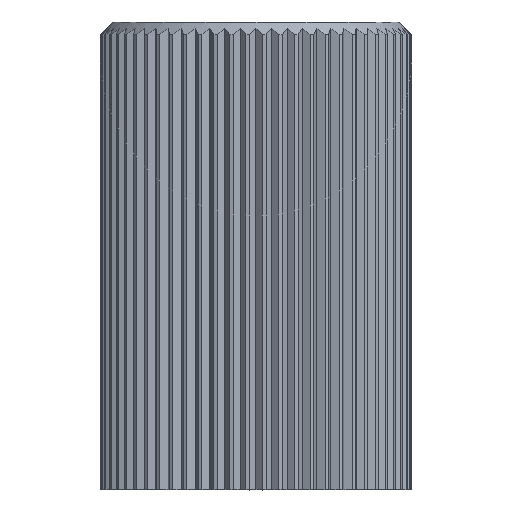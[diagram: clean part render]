
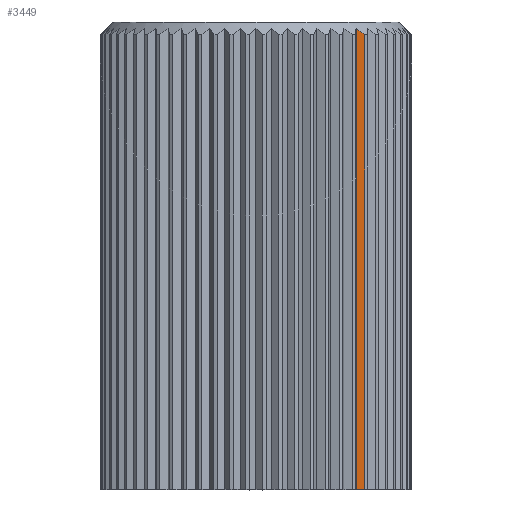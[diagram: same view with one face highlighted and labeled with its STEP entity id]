
A CAD part, top view. The second image highlights one B-rep face of the part: STEP entity #3449.
In plain terms, the highlighted planar face has unit normal (-0.052, 0, 0.999).
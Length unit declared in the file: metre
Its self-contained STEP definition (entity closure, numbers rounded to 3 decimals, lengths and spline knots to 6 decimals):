
#116=CIRCLE('',#3689,0.00937);
#485=ORIENTED_EDGE('',*,*,#1550,.T.);
#486=ORIENTED_EDGE('',*,*,#1551,.T.);
#487=ORIENTED_EDGE('',*,*,#1552,.F.);
#488=ORIENTED_EDGE('',*,*,#1553,.F.);
#1550=EDGE_CURVE('',#2072,#2073,#2414,.T.);
#1551=EDGE_CURVE('',#2073,#2074,#2415,.T.);
#1552=EDGE_CURVE('',#2075,#2074,#116,.T.);
#1553=EDGE_CURVE('',#2072,#2075,#2416,.T.);
#2072=VERTEX_POINT('',#5505);
#2073=VERTEX_POINT('',#5506);
#2074=VERTEX_POINT('',#5508);
#2075=VERTEX_POINT('',#5510);
#2414=LINE('',#5504,#2714);
#2415=LINE('',#5507,#2715);
#2416=LINE('',#5511,#2716);
#2714=VECTOR('',#4308,1.);
#2715=VECTOR('',#4309,1.);
#2716=VECTOR('',#4312,1.);
#2951=EDGE_LOOP('',(#485,#486,#487,#488));
#3139=FACE_BOUND('',#2951,.T.);
#3327=PLANE('',#3688);
#3449=ADVANCED_FACE('',(#3139),#3327,.F.);
#3688=AXIS2_PLACEMENT_3D('',#5503,#4306,#4307);
#3689=AXIS2_PLACEMENT_3D('',#5509,#4310,#4311);
#4306=DIRECTION('',(0.052,0.,-0.999));
#4307=DIRECTION('',(-0.999,0.,-0.052));
#4308=DIRECTION('',(0.999,0.,0.052));
#4309=DIRECTION('',(0.,1.,0.));
#4310=DIRECTION('',(0.052,0.,-0.999));
#4311=DIRECTION('',(0.577,0.816,0.03));
#4312=DIRECTION('',(0.,1.,0.));
#5503=CARTESIAN_POINT('',(-0.006896,0.011949,0.001572));
#5504=CARTESIAN_POINT('',(-0.003439,0.01195,0.001754));
#5505=CARTESIAN_POINT('',(-0.003578,0.01195,0.001746));
#5506=CARTESIAN_POINT('',(-0.003439,0.01195,0.001754));
#5507=CARTESIAN_POINT('',(-0.003439,0.011949,0.001754));
#5508=CARTESIAN_POINT('',(-0.003439,0.0191,0.001754));
#5509=CARTESIAN_POINT('',(-0.008982,0.011551,0.001463));
#5510=CARTESIAN_POINT('',(-0.003578,0.0192,0.001746));
#5511=CARTESIAN_POINT('',(-0.003578,0.011949,0.001746));
